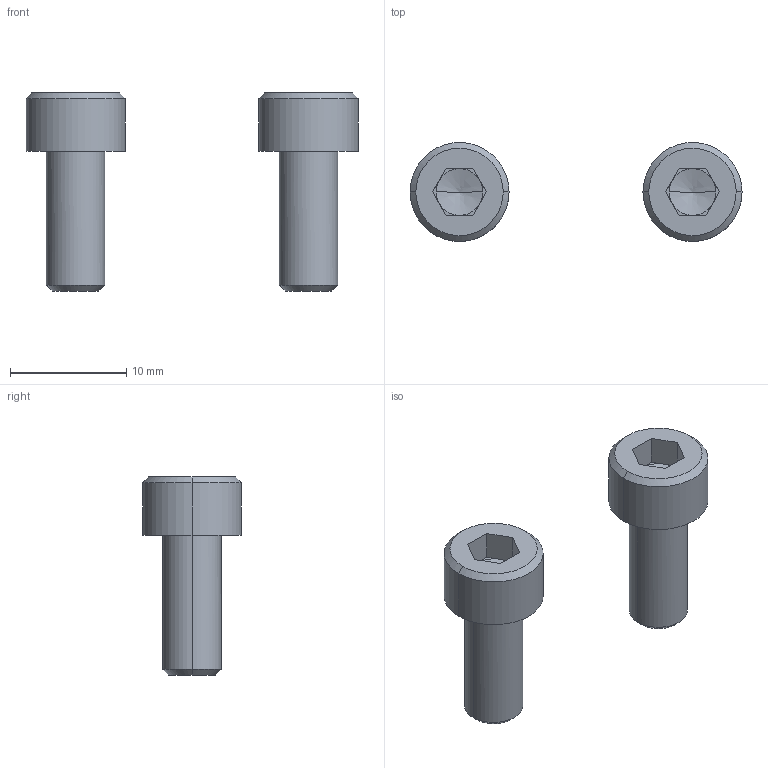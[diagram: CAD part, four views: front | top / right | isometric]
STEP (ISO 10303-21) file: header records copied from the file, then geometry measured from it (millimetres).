
FILE_DESCRIPTION(/* description */ (''),/* implementation_level */ '2;1');
FILE_NAME(/* name */ '7.x-cart#7.7#CB5-12',/* time_stamp */ '2014-12-01T20:17:43+01:00',/* author */ (''),/* organization */ (''),/* preprocessor_version */ 'ST-DEVELOPER v14',/* originating_system */ '',/* authorisation */ '');
FILE_SCHEMA (('AUTOMOTIVE_DESIGN'));
Length unit declared in the file: millimetre
Products named in the file (2): Document; screw DIN912-like, M5x12
Assembly tree (2 placements, depth 2):
  Document
    screw DIN912-like, M5x12  x2
Bounding box: 28.5 x 8.49 x 17 mm (x, y, z)
Volume: 957.3 mm3; surface area: 915.4 mm2
Topology: 2 solids, 2 shells, 50 faces, 112 edges, 66 vertices
Faces by surface type: plane 30, bspline 20
Entity records: 1413 total; most frequent: CARTESIAN_POINT 633, B_SPLINE_CURVE_WITH_KNOTS 126, ORIENTED_EDGE 108, PCURVE 108, DEFINITIONAL_REPRESENTATION 108, SURFACE_CURVE 54, EDGE_CURVE 54, VERTEX_POINT 33
